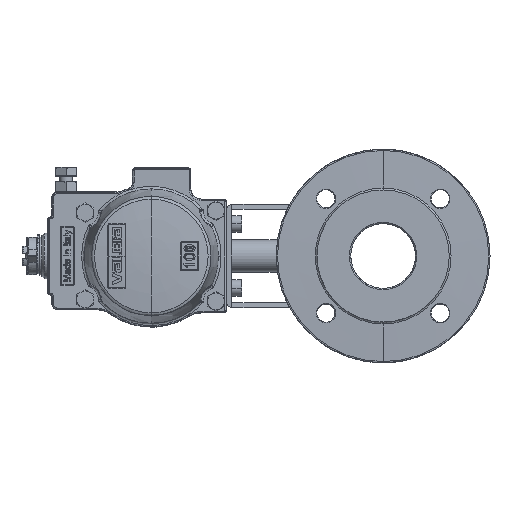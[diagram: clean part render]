
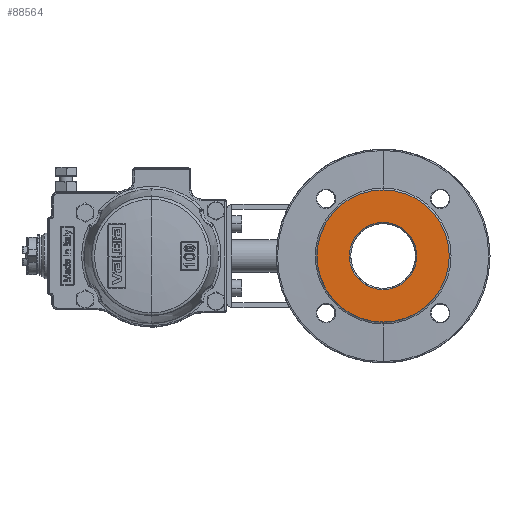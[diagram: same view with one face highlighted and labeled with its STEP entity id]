
A CAD part, left-side view. The second image highlights one B-rep face of the part: STEP entity #88564.
In plain terms, the highlighted planar face has unit normal (-1, 0, 0).
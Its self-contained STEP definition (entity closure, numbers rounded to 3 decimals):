
#3793 = DIRECTION ( 'NONE',  ( 0., 0., -1. ) ) ;
#5138 = ORIENTED_EDGE ( 'NONE', *, *, #34487, .F. ) ;
#7540 = EDGE_CURVE ( 'NONE', #73595, #52301, #130183, .T. ) ;
#19203 = FACE_BOUND ( 'NONE', #37811, .T. ) ;
#22379 = FACE_OUTER_BOUND ( 'NONE', #118632, .T. ) ;
#23675 = CARTESIAN_POINT ( 'NONE',  ( -98., 0., 26. ) ) ;
#26336 = CARTESIAN_POINT ( 'NONE',  ( -98., 0., -51. ) ) ;
#27829 = CARTESIAN_POINT ( 'NONE',  ( -98., 0., 0. ) ) ;
#28776 = CARTESIAN_POINT ( 'NONE',  ( -98., 0., 0. ) ) ;
#29078 = AXIS2_PLACEMENT_3D ( 'NONE', #47053, #117814, #57282 ) ;
#34487 = EDGE_CURVE ( 'NONE', #122471, #91355, #128839, .T. ) ;
#36166 = CIRCLE ( 'NONE', #75610, 51. ) ;
#36528 = AXIS2_PLACEMENT_3D ( 'NONE', #27829, #98498, #37966 ) ;
#37811 = EDGE_LOOP ( 'NONE', ( #106757, #57112 ) ) ;
#37966 = DIRECTION ( 'NONE',  ( 0., 0., 1. ) ) ;
#38910 = DIRECTION ( 'NONE',  ( 0., 0., 1. ) ) ;
#47053 = CARTESIAN_POINT ( 'NONE',  ( -98., 0., 0. ) ) ;
#51686 = CIRCLE ( 'NONE', #29078, 26. ) ;
#52301 = VERTEX_POINT ( 'NONE', #23675 ) ;
#56318 = DIRECTION ( 'NONE',  ( -1., 0., 0. ) ) ;
#57112 = ORIENTED_EDGE ( 'NONE', *, *, #7540, .F. ) ;
#57282 = DIRECTION ( 'NONE',  ( 0., 0., 1. ) ) ;
#64262 = DIRECTION ( 'NONE',  ( 1., 0., 0. ) ) ;
#69125 = CARTESIAN_POINT ( 'NONE',  ( -98., 0., -26. ) ) ;
#71786 = AXIS2_PLACEMENT_3D ( 'NONE', #116841, #56318, #126923 ) ;
#73595 = VERTEX_POINT ( 'NONE', #69125 ) ;
#75610 = AXIS2_PLACEMENT_3D ( 'NONE', #28776, #99432, #38910 ) ;
#84124 = PLANE ( 'NONE',  #111914 ) ;
#88564 = ADVANCED_FACE ( 'NONE', ( #19203, #22379 ), #84124, .F. ) ;
#91355 = VERTEX_POINT ( 'NONE', #101516 ) ;
#98498 = DIRECTION ( 'NONE',  ( 1., 0., 0. ) ) ;
#99185 = EDGE_CURVE ( 'NONE', #91355, #122471, #36166, .T. ) ;
#99432 = DIRECTION ( 'NONE',  ( 1., 0., 0. ) ) ;
#101516 = CARTESIAN_POINT ( 'NONE',  ( -98., 0., 51. ) ) ;
#106757 = ORIENTED_EDGE ( 'NONE', *, *, #122557, .F. ) ;
#111914 = AXIS2_PLACEMENT_3D ( 'NONE', #124743, #64262, #3793 ) ;
#116841 = CARTESIAN_POINT ( 'NONE',  ( -98., 0., 0. ) ) ;
#117814 = DIRECTION ( 'NONE',  ( -1., 0., 0. ) ) ;
#118632 = EDGE_LOOP ( 'NONE', ( #125849, #5138 ) ) ;
#122471 = VERTEX_POINT ( 'NONE', #26336 ) ;
#122557 = EDGE_CURVE ( 'NONE', #52301, #73595, #51686, .T. ) ;
#124743 = CARTESIAN_POINT ( 'NONE',  ( -98., -51.612, 51.612 ) ) ;
#125849 = ORIENTED_EDGE ( 'NONE', *, *, #99185, .F. ) ;
#126923 = DIRECTION ( 'NONE',  ( 0., 0., 1. ) ) ;
#128839 = CIRCLE ( 'NONE', #36528, 51. ) ;
#130183 = CIRCLE ( 'NONE', #71786, 26. ) ;
